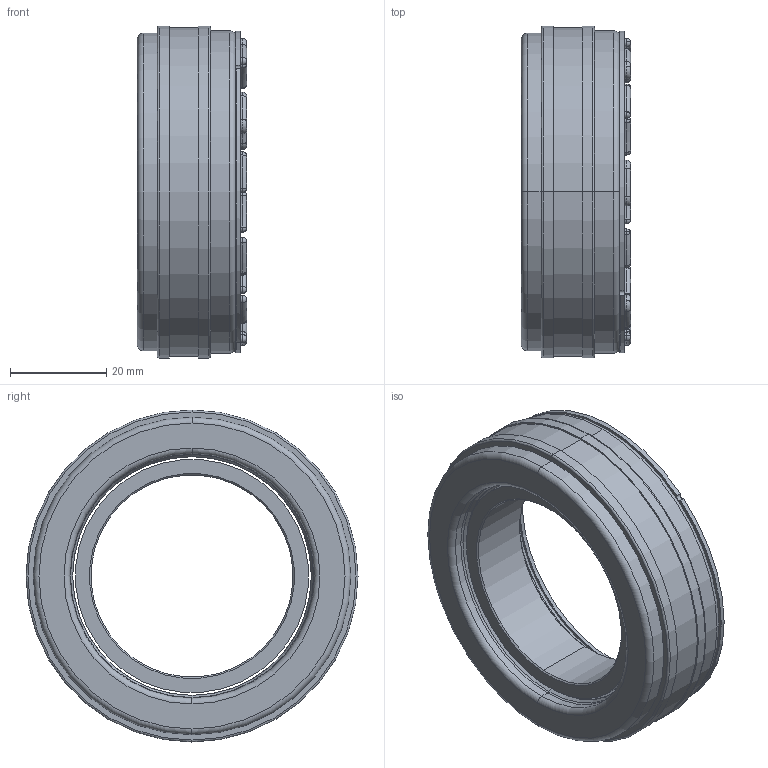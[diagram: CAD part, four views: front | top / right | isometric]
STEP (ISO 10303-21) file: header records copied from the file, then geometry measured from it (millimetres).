
FILE_DESCRIPTION (( 'STEP AP214' ), '1' );
FILE_NAME ('E-00122173.02.step', '2019-07-16T07:33:05', ( 'Admin' ), ( 'Microsoft' ), 'SwSTEP 2.0', 'SolidWorks 2018', '' );
FILE_SCHEMA (( 'AUTOMOTIVE_DESIGN' ));
Length unit declared in the file: millimetre
Products named in the file (4): E-00122177; E-00008094; E-00122172_ohne PIN STD; E-00122173.02
Assembly tree (3 placements, depth 2):
  E-00122173.02
    E-00122172_ohne PIN STD
    E-00008094
    E-00122177
Bounding box: 22.7 x 69 x 69 mm (x, y, z)
Volume: 40505.7 mm3; surface area: 19088.8 mm2
Topology: 3 solids, 3 shells, 1124 faces, 2488 edges, 1622 vertices
Faces by surface type: cylinder 570, plane 459, torus 87, cone 8
Entity records: 41862 total; most frequent: DIRECTION 6124, CARTESIAN_POINT 5282, ORIENTED_EDGE 4976, AXIS2_PLACEMENT_3D 2510, EDGE_CURVE 2488, VERTEX_POINT 1622, EDGE_LOOP 1388, CIRCLE 1380
